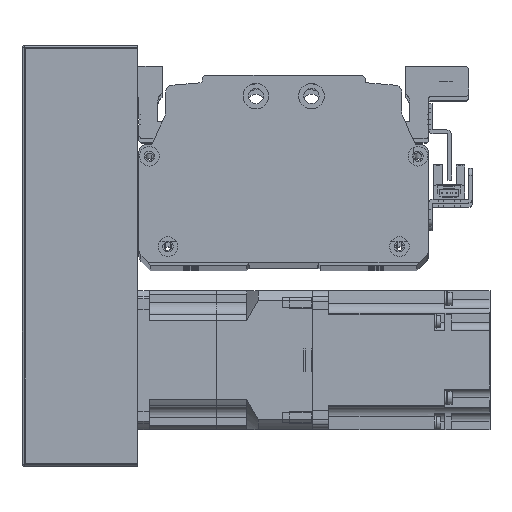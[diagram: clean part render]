
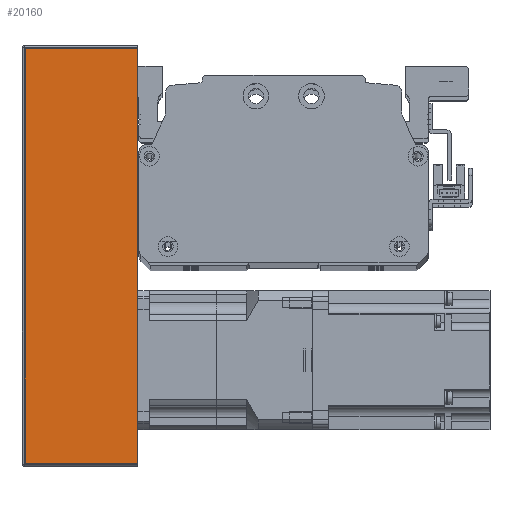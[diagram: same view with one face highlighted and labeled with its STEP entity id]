
A CAD part, top view. The second image highlights one B-rep face of the part: STEP entity #20160.
In plain terms, the highlighted planar face has unit normal (0, 0, 1) as drawn and (0, 1, 0) by its records, which use the part's own axes.
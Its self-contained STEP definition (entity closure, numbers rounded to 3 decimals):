
#609=PLANE('',#22184);
#1812=LINE('',#33249,#3436);
#1829=LINE('',#33303,#3453);
#1834=LINE('',#33327,#3458);
#1853=LINE('',#33390,#3477);
#3436=VECTOR('',#26899,10.);
#3453=VECTOR('',#26952,10.);
#3458=VECTOR('',#26989,10.);
#3477=VECTOR('',#27072,10.);
#5904=FACE_OUTER_BOUND('',#7404,.T.);
#7404=EDGE_LOOP('',(#17415,#17416,#17417,#17418));
#10301=VERTEX_POINT('',#33246);
#10302=VERTEX_POINT('',#33248);
#10320=VERTEX_POINT('',#33300);
#10321=VERTEX_POINT('',#33302);
#12768=EDGE_CURVE('',#10301,#10302,#1812,.T.);
#12796=EDGE_CURVE('',#10320,#10321,#1829,.T.);
#12810=EDGE_CURVE('',#10302,#10320,#1834,.T.);
#12841=EDGE_CURVE('',#10321,#10301,#1853,.T.);
#17415=ORIENTED_EDGE('',*,*,#12796,.F.);
#17416=ORIENTED_EDGE('',*,*,#12810,.F.);
#17417=ORIENTED_EDGE('',*,*,#12768,.F.);
#17418=ORIENTED_EDGE('',*,*,#12841,.F.);
#20160=ADVANCED_FACE('',(#5904),#609,.T.);
#22184=AXIS2_PLACEMENT_3D('',#33389,#27070,#27071);
#26899=DIRECTION('',(-1.,0.,0.));
#26952=DIRECTION('',(1.,0.,0.));
#26989=DIRECTION('',(0.,0.,-1.));
#27070=DIRECTION('center_axis',(0.,1.,0.));
#27071=DIRECTION('ref_axis',(-1.,0.,0.));
#27072=DIRECTION('',(0.,0.,1.));
#33246=CARTESIAN_POINT('',(90.,38.,25.));
#33248=CARTESIAN_POINT('',(-90.,38.,25.));
#33249=CARTESIAN_POINT('',(-91.,38.,25.));
#33300=CARTESIAN_POINT('',(-90.,38.,-24.));
#33302=CARTESIAN_POINT('',(90.,38.,-24.));
#33303=CARTESIAN_POINT('',(45.5,38.,-24.));
#33327=CARTESIAN_POINT('',(-90.,38.,0.));
#33389=CARTESIAN_POINT('Origin',(91.,38.,0.));
#33390=CARTESIAN_POINT('',(90.,38.,0.));
